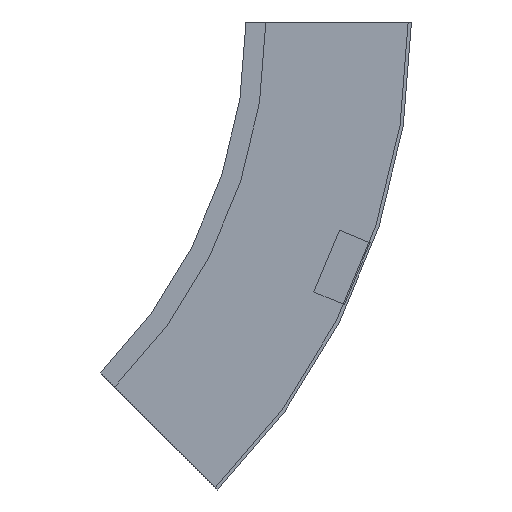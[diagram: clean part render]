
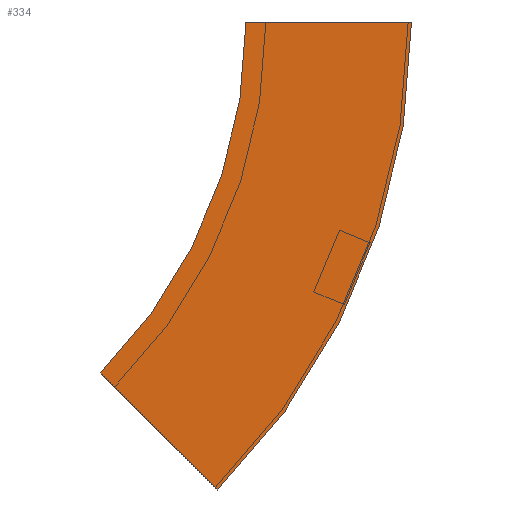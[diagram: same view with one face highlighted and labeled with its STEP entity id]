
A CAD part, left-side view. The second image highlights one B-rep face of the part: STEP entity #334.
In plain terms, the highlighted planar face has unit normal (-1, 0, 0) as drawn and (1, 0, 0) by its records, which use the part's own axes.
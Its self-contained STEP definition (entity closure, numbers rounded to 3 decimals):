
#3 = EDGE_CURVE ( 'NONE', #43, #181, #337, .T. ) ;
#8 = DIRECTION ( 'NONE',  ( 0., -1., 0. ) ) ;
#14 = EDGE_LOOP ( 'NONE', ( #131, #123, #132, #61 ) ) ;
#43 = VERTEX_POINT ( 'NONE', #84 ) ;
#55 = CARTESIAN_POINT ( 'NONE',  ( 0., 300., 0. ) ) ;
#57 = VECTOR ( 'NONE', #329, 1000. ) ;
#61 = ORIENTED_EDGE ( 'NONE', *, *, #317, .T. ) ;
#63 = CIRCLE ( 'NONE', #298, 400. ) ;
#67 = FACE_OUTER_BOUND ( 'NONE', #14, .T. ) ;
#69 = EDGE_CURVE ( 'NONE', #520, #43, #433, .T. ) ;
#73 = VECTOR ( 'NONE', #389, 1000. ) ;
#80 = VERTEX_POINT ( 'NONE', #269 ) ;
#84 = CARTESIAN_POINT ( 'NONE',  ( 0., 0., 0. ) ) ;
#117 = CARTESIAN_POINT ( 'NONE',  ( 0., -100., 0. ) ) ;
#123 = ORIENTED_EDGE ( 'NONE', *, *, #69, .F. ) ;
#131 = ORIENTED_EDGE ( 'NONE', *, *, #3, .F. ) ;
#132 = ORIENTED_EDGE ( 'NONE', *, *, #371, .T. ) ;
#148 = AXIS2_PLACEMENT_3D ( 'NONE', #518, #473, #209 ) ;
#181 = VERTEX_POINT ( 'NONE', #372 ) ;
#209 = DIRECTION ( 'NONE',  ( 0., 0., 1. ) ) ;
#212 = CARTESIAN_POINT ( 'NONE',  ( 0., -100., 0. ) ) ;
#269 = CARTESIAN_POINT ( 'NONE',  ( 0., 17.157, -282.843 ) ) ;
#298 = AXIS2_PLACEMENT_3D ( 'NONE', #55, #532, #483 ) ;
#317 = EDGE_CURVE ( 'NONE', #80, #181, #468, .T. ) ;
#329 = DIRECTION ( 'NONE',  ( 0., 0.707, 0.707 ) ) ;
#334 = ADVANCED_FACE ( 'NONE', ( #67 ), #335, .F. ) ;
#335 = PLANE ( 'NONE',  #148 ) ;
#337 = CIRCLE ( 'NONE', #381, 300. ) ;
#371 = EDGE_CURVE ( 'NONE', #520, #80, #63, .T. ) ;
#372 = CARTESIAN_POINT ( 'NONE',  ( 0., 87.868, -212.132 ) ) ;
#381 = AXIS2_PLACEMENT_3D ( 'NONE', #494, #397, #8 ) ;
#389 = DIRECTION ( 'NONE',  ( 0., 1., 0. ) ) ;
#397 = DIRECTION ( 'NONE',  ( 1., 0., 0. ) ) ;
#422 = CARTESIAN_POINT ( 'NONE',  ( 0., 17.157, -282.843 ) ) ;
#433 = LINE ( 'NONE', #212, #73 ) ;
#468 = LINE ( 'NONE', #422, #57 ) ;
#473 = DIRECTION ( 'NONE',  ( -1., 0., 0. ) ) ;
#483 = DIRECTION ( 'NONE',  ( 0., -1., 0. ) ) ;
#494 = CARTESIAN_POINT ( 'NONE',  ( 0., 300., 0. ) ) ;
#518 = CARTESIAN_POINT ( 'NONE',  ( 0., -100., 0. ) ) ;
#520 = VERTEX_POINT ( 'NONE', #117 ) ;
#532 = DIRECTION ( 'NONE',  ( 1., 0., 0. ) ) ;
